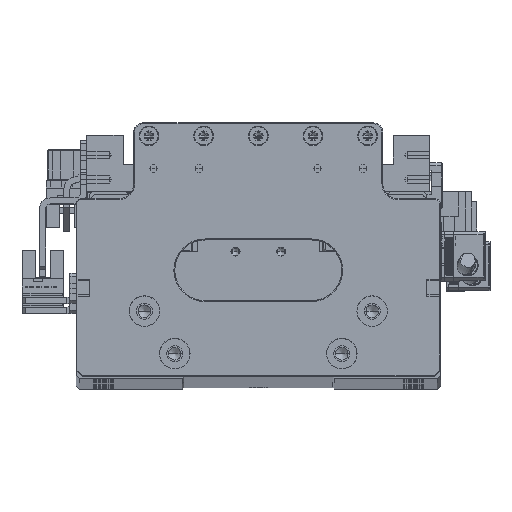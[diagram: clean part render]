
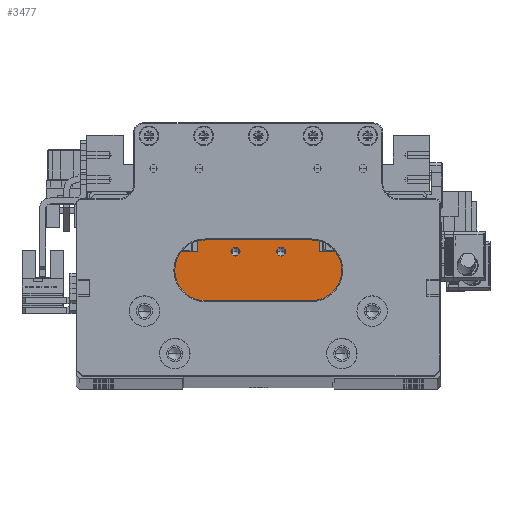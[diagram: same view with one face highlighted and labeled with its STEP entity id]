
A CAD part, top view. The second image highlights one B-rep face of the part: STEP entity #3477.
In plain terms, the highlighted planar face has unit normal (0, 0, 1).
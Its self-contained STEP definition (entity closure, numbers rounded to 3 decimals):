
#80 = CARTESIAN_POINT ( 'NONE',  ( 29.9, 6.5, 83.854 ) ) ;
#2368 = VECTOR ( 'NONE', #44663, 1000. ) ;
#3199 = ORIENTED_EDGE ( 'NONE', *, *, #122764, .F. ) ;
#3477 = ADVANCED_FACE ( 'NONE', ( #6063, #57745, #109479 ), #45558, .F. ) ;
#5576 = LINE ( 'NONE', #75463, #2368 ) ;
#5757 = EDGE_CURVE ( 'NONE', #93861, #109720, #24978, .T. ) ;
#6063 = FACE_OUTER_BOUND ( 'NONE', #59041, .T. ) ;
#8365 = CARTESIAN_POINT ( 'NONE',  ( 7.5, 25.8, 83.854 ) ) ;
#8625 = EDGE_CURVE ( 'NONE', #8782, #17186, #64813, .T. ) ;
#8782 = VERTEX_POINT ( 'NONE', #92300 ) ;
#9432 = LINE ( 'NONE', #80569, #61153 ) ;
#11459 = CARTESIAN_POINT ( 'NONE',  ( -7.5, 25.7, 83.854 ) ) ;
#11890 = CARTESIAN_POINT ( 'NONE',  ( 9.025, 25.8, 83.854 ) ) ;
#14292 = CARTESIAN_POINT ( 'NONE',  ( -7.5, 25.7, 83.854 ) ) ;
#14346 = ORIENTED_EDGE ( 'NONE', *, *, #52096, .F. ) ;
#14638 = EDGE_CURVE ( 'NONE', #103025, #17295, #5576, .T. ) ;
#15350 = AXIS2_PLACEMENT_3D ( 'NONE', #8365, #80683, #18775 ) ;
#16703 = DIRECTION ( 'NONE',  ( 0., 0., 1. ) ) ;
#17186 = VERTEX_POINT ( 'NONE', #92295 ) ;
#17295 = VERTEX_POINT ( 'NONE', #80 ) ;
#18065 = ORIENTED_EDGE ( 'NONE', *, *, #86932, .F. ) ;
#18775 = DIRECTION ( 'NONE',  ( 1., 0., 0. ) ) ;
#19470 = CARTESIAN_POINT ( 'NONE',  ( 20., 18.2, 83.854 ) ) ;
#20542 = ORIENTED_EDGE ( 'NONE', *, *, #14638, .T. ) ;
#21204 = EDGE_LOOP ( 'NONE', ( #3199, #79708 ) ) ;
#23661 = ORIENTED_EDGE ( 'NONE', *, *, #8625, .F. ) ;
#24649 = DIRECTION ( 'NONE',  ( 1., 0., 0. ) ) ;
#24794 = VECTOR ( 'NONE', #24649, 1000. ) ;
#24978 = LINE ( 'NONE', #83139, #104219 ) ;
#25362 = VERTEX_POINT ( 'NONE', #90893 ) ;
#26837 = VERTEX_POINT ( 'NONE', #115272 ) ;
#28855 = VERTEX_POINT ( 'NONE', #47182 ) ;
#29913 = ORIENTED_EDGE ( 'NONE', *, *, #125532, .F. ) ;
#31042 = LINE ( 'NONE', #120427, #82835 ) ;
#33598 = CARTESIAN_POINT ( 'NONE',  ( -29.9, 25.7, 83.854 ) ) ;
#35146 = CARTESIAN_POINT ( 'NONE',  ( -7.5, 18.2, 83.854 ) ) ;
#40356 = CARTESIAN_POINT ( 'NONE',  ( 29.9, 25.7, 83.854 ) ) ;
#41999 = AXIS2_PLACEMENT_3D ( 'NONE', #78613, #16703, #89048 ) ;
#44663 = DIRECTION ( 'NONE',  ( 1., 0., 0. ) ) ;
#45558 = PLANE ( 'NONE',  #95032 ) ;
#46170 = AXIS2_PLACEMENT_3D ( 'NONE', #122437, #60570, #132766 ) ;
#47182 = CARTESIAN_POINT ( 'NONE',  ( 20., 25.7, 83.854 ) ) ;
#47514 = VERTEX_POINT ( 'NONE', #33598 ) ;
#52096 = EDGE_CURVE ( 'NONE', #26837, #28855, #128719, .T. ) ;
#52257 = LINE ( 'NONE', #14292, #24794 ) ;
#52874 = CARTESIAN_POINT ( 'NONE',  ( -20., 25.7, 83.854 ) ) ;
#53620 = ORIENTED_EDGE ( 'NONE', *, *, #5757, .F. ) ;
#54598 = CARTESIAN_POINT ( 'NONE',  ( -20., 29.7, 83.854 ) ) ;
#57466 = DIRECTION ( 'NONE',  ( 0., 0., 1. ) ) ;
#57745 = FACE_BOUND ( 'NONE', #21204, .T. ) ;
#58006 = VECTOR ( 'NONE', #84180, 1000. ) ;
#59041 = EDGE_LOOP ( 'NONE', ( #73340, #63084, #20542, #29913, #78912, #14346, #100178, #53620 ) ) ;
#60570 = DIRECTION ( 'NONE',  ( 0., 0., 1. ) ) ;
#61153 = VECTOR ( 'NONE', #90992, 1000. ) ;
#61302 = LINE ( 'NONE', #104456, #58006 ) ;
#63084 = ORIENTED_EDGE ( 'NONE', *, *, #127876, .F. ) ;
#64813 = CIRCLE ( 'NONE', #69448, 1.525 ) ;
#66327 = DIRECTION ( 'NONE',  ( -1., 0., 0. ) ) ;
#67734 = CARTESIAN_POINT ( 'NONE',  ( -29.9, 6.5, 83.854 ) ) ;
#69448 = AXIS2_PLACEMENT_3D ( 'NONE', #119356, #57466, #129694 ) ;
#73340 = ORIENTED_EDGE ( 'NONE', *, *, #112697, .F. ) ;
#73873 = VECTOR ( 'NONE', #102136, 1000. ) ;
#75463 = CARTESIAN_POINT ( 'NONE',  ( -7.5, 6.5, 83.854 ) ) ;
#78613 = CARTESIAN_POINT ( 'NONE',  ( 7.5, 25.8, 83.854 ) ) ;
#78912 = ORIENTED_EDGE ( 'NONE', *, *, #98183, .F. ) ;
#79708 = ORIENTED_EDGE ( 'NONE', *, *, #102092, .F. ) ;
#80569 = CARTESIAN_POINT ( 'NONE',  ( -7.5, 29.7, 83.854 ) ) ;
#80683 = DIRECTION ( 'NONE',  ( 0., 0., 1. ) ) ;
#82835 = VECTOR ( 'NONE', #130783, 1000. ) ;
#83139 = CARTESIAN_POINT ( 'NONE',  ( -20., 18.2, 83.854 ) ) ;
#84180 = DIRECTION ( 'NONE',  ( 0., 1., 0. ) ) ;
#86932 = EDGE_CURVE ( 'NONE', #17186, #8782, #102878, .T. ) ;
#89048 = DIRECTION ( 'NONE',  ( 1., 0., 0. ) ) ;
#90893 = CARTESIAN_POINT ( 'NONE',  ( 5.975, 25.8, 83.854 ) ) ;
#90992 = DIRECTION ( 'NONE',  ( 1., 0., 0. ) ) ;
#92295 = CARTESIAN_POINT ( 'NONE',  ( -9.025, 25.8, 83.854 ) ) ;
#92300 = CARTESIAN_POINT ( 'NONE',  ( -5.975, 25.8, 83.854 ) ) ;
#92917 = LINE ( 'NONE', #11459, #117093 ) ;
#93861 = VERTEX_POINT ( 'NONE', #52874 ) ;
#94144 = DIRECTION ( 'NONE',  ( 1., 0., 0. ) ) ;
#95032 = AXIS2_PLACEMENT_3D ( 'NONE', #35146, #128158, #66327 ) ;
#96209 = EDGE_LOOP ( 'NONE', ( #23661, #18065 ) ) ;
#98183 = EDGE_CURVE ( 'NONE', #28855, #118841, #52257, .T. ) ;
#100178 = ORIENTED_EDGE ( 'NONE', *, *, #102619, .F. ) ;
#102092 = EDGE_CURVE ( 'NONE', #25362, #112750, #114379, .T. ) ;
#102136 = DIRECTION ( 'NONE',  ( 0., -1., 0. ) ) ;
#102619 = EDGE_CURVE ( 'NONE', #109720, #26837, #9432, .T. ) ;
#102878 = CIRCLE ( 'NONE', #46170, 1.525 ) ;
#103025 = VERTEX_POINT ( 'NONE', #67734 ) ;
#103902 = DIRECTION ( 'NONE',  ( 0., 1., 0. ) ) ;
#104219 = VECTOR ( 'NONE', #103902, 1000. ) ;
#104456 = CARTESIAN_POINT ( 'NONE',  ( -29.9, 18.2, 83.854 ) ) ;
#104598 = CIRCLE ( 'NONE', #41999, 1.525 ) ;
#109479 = FACE_BOUND ( 'NONE', #96209, .T. ) ;
#109720 = VERTEX_POINT ( 'NONE', #54598 ) ;
#112697 = EDGE_CURVE ( 'NONE', #47514, #93861, #92917, .T. ) ;
#112750 = VERTEX_POINT ( 'NONE', #11890 ) ;
#114379 = CIRCLE ( 'NONE', #15350, 1.525 ) ;
#115272 = CARTESIAN_POINT ( 'NONE',  ( 20., 29.7, 83.854 ) ) ;
#117093 = VECTOR ( 'NONE', #94144, 1000. ) ;
#118841 = VERTEX_POINT ( 'NONE', #40356 ) ;
#119356 = CARTESIAN_POINT ( 'NONE',  ( -7.5, 25.8, 83.854 ) ) ;
#120427 = CARTESIAN_POINT ( 'NONE',  ( 29.9, 18.2, 83.854 ) ) ;
#122437 = CARTESIAN_POINT ( 'NONE',  ( -7.5, 25.8, 83.854 ) ) ;
#122764 = EDGE_CURVE ( 'NONE', #112750, #25362, #104598, .T. ) ;
#125532 = EDGE_CURVE ( 'NONE', #118841, #17295, #31042, .T. ) ;
#127876 = EDGE_CURVE ( 'NONE', #103025, #47514, #61302, .T. ) ;
#128158 = DIRECTION ( 'NONE',  ( 0., 0., -1. ) ) ;
#128719 = LINE ( 'NONE', #19470, #73873 ) ;
#129694 = DIRECTION ( 'NONE',  ( 1., 0., 0. ) ) ;
#130783 = DIRECTION ( 'NONE',  ( 0., -1., 0. ) ) ;
#132766 = DIRECTION ( 'NONE',  ( 1., 0., 0. ) ) ;
